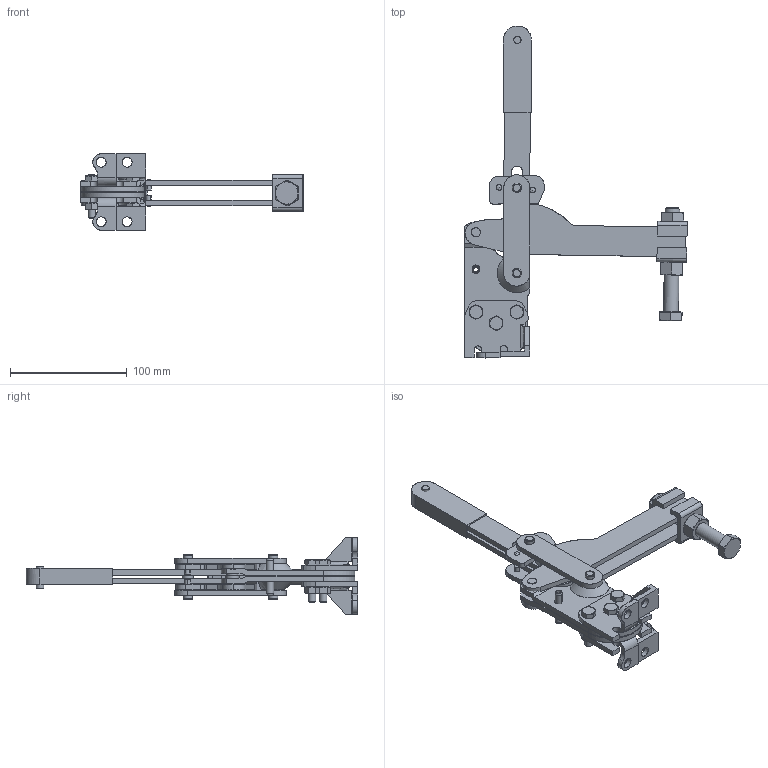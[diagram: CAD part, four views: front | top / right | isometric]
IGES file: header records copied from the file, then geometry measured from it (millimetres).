
Start section:  Autodesk DirectConnect version 7.0.27.0 ---- IGES version 5.3
Global section: file name: C:\Users\Nick\Desktop\CASB-800\3D\CASB-800.igs; native system: Autodesk DirectConnect 7.0.27.0; preprocessor: 7.0.27.0; author: Nick; organization: Unknown; date: 20150814.155000; units: inch
Bounding box: 190.31 x 283.97 x 65.23 mm (x, y, z)
Surface area: 136561.4 mm2 (no closed solid volume)
Topology: 0 solids, 0 shells, 630 faces, 3919 edges, 3867 vertices
Faces by surface type: bspline 630
